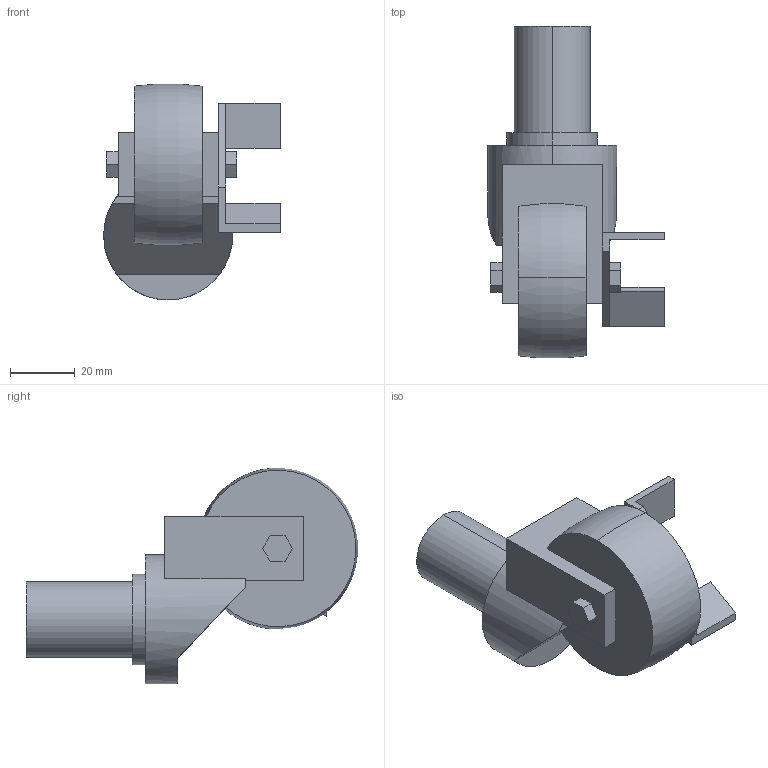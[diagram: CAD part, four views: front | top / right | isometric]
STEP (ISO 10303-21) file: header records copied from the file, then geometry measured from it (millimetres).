
FILE_DESCRIPTION (( 'STEP AP214' ), '1' );
FILE_NAME ('SUS-50SN.step', '2024-02-15T04:32:14', ( 'catia' ), ( 'HP Inc.' ), 'SwSTEP 2.0', 'SolidWorks 2021', '' );
FILE_SCHEMA (( 'AUTOMOTIVE_DESIGN' ));
Length unit declared in the file: millimetre
Products named in the file (1): SUS-50SN
Bounding box: 54.8 x 102.92 x 66.92 mm (x, y, z)
Volume: 93824.3 mm3; surface area: 17081 mm2
Topology: 1 solids, 1 shells, 56 faces, 144 edges, 94 vertices
Faces by surface type: plane 47, cylinder 6, torus 3
Entity records: 1725 total; most frequent: CARTESIAN_POINT 312, ORIENTED_EDGE 288, DIRECTION 278, EDGE_CURVE 144, VECTOR 116, LINE 116, VERTEX_POINT 94, AXIS2_PLACEMENT_3D 81
